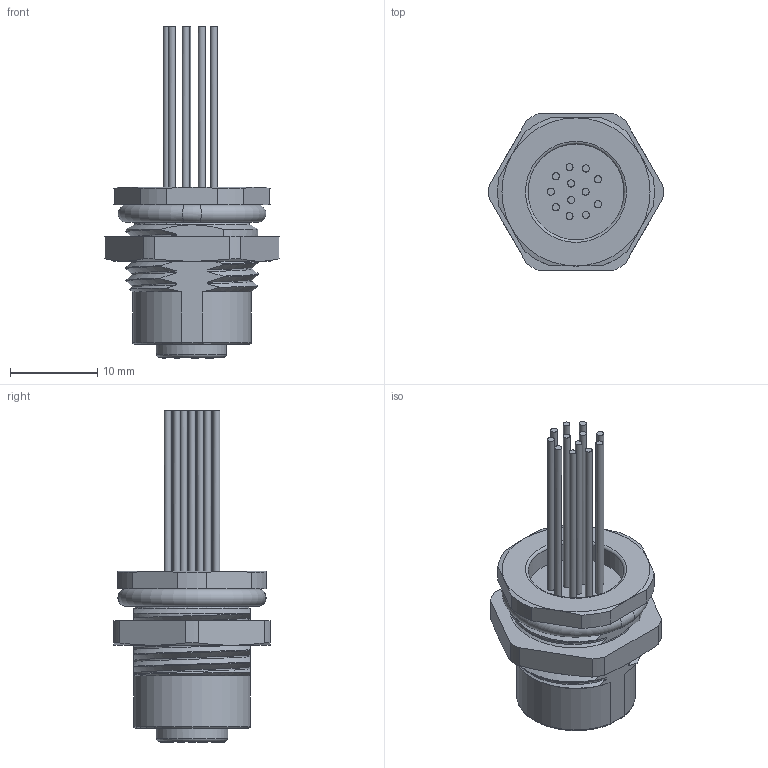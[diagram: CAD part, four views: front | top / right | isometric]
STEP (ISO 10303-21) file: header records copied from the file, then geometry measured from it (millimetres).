
FILE_DESCRIPTION(/* description */ (''),/* implementation_level */ '2;1');
FILE_NAME(/* name */ '76 0532 1111 00012 001_00-FD_ PG9.stp',/* time_stamp */ '2017-09-05T14:43:54+02:00',/* author */ (''),/* organization */ (''),/* preprocessor_version */ 'ST-DEVELOPER v16',/* originating_system */ 'SIEMENS PLM Software NX 11.0',/* authorisation */ '');
FILE_SCHEMA (('AUTOMOTIVE_DESIGN { 1 0 10303 214 3 1 1 1 }'));
Length unit declared in the file: millimetre
Products named in the file (1): smag1FA8D026siqt
Bounding box: 19.99 x 18 x 38.1 mm (x, y, z)
Volume: 2884 mm3; surface area: 4166.5 mm2
Topology: 2 solids, 3 shells, 503 faces, 1209 edges, 789 vertices
Faces by surface type: plane 192, cylinder 142, extrusion 75, cone 53, bspline 24, torus 15, sphere 2
Full cylindrical faces by diameter (mm): 0.7 x12, 0.8 x12, 1.2 x12, 8.2 x2, 10.8 x1, 11 x1, 12.2 x1
Entity records: 29242 total; most frequent: CARTESIAN_POINT 18428, ORIENTED_EDGE 2254, DIRECTION 1906, EDGE_CURVE 1127, VERTEX_POINT 771, AXIS2_PLACEMENT_3D 709, EDGE_LOOP 652, ADVANCED_FACE 503
